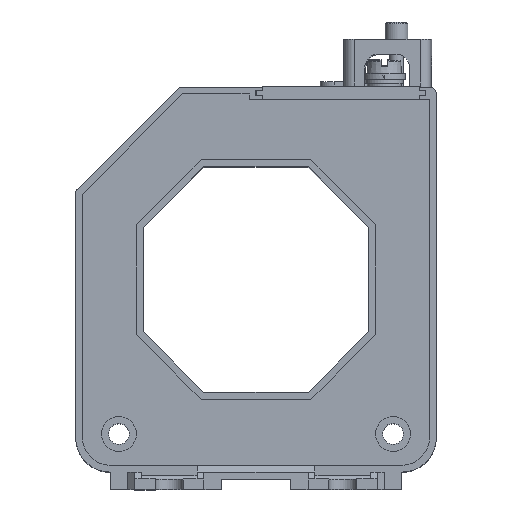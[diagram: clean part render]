
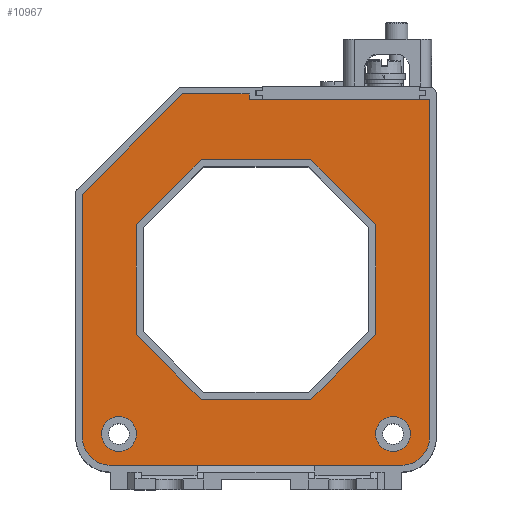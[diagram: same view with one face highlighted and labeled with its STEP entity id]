
A CAD part, top view. The second image highlights one B-rep face of the part: STEP entity #10967.
In plain terms, the highlighted planar face has unit normal (0, 0, 1).
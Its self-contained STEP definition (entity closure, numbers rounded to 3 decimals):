
#411=FACE_BOUND('',#1398,.T.);
#412=FACE_BOUND('',#1399,.T.);
#413=FACE_BOUND('',#1400,.T.);
#591=CIRCLE('',#11788,5.);
#593=CIRCLE('',#11791,5.);
#597=CIRCLE('',#11799,8.);
#598=CIRCLE('',#11800,8.);
#780=FACE_OUTER_BOUND('',#1397,.T.);
#1397=EDGE_LOOP('',(#7580,#7581,#7582,#7583,#7584,#7585,#7586,#7587,#7588));
#1398=EDGE_LOOP('',(#7589));
#1399=EDGE_LOOP('',(#7590));
#1400=EDGE_LOOP('',(#7591,#7592,#7593,#7594,#7595,#7596,#7597,#7598));
#2123=LINE('',#15468,#3386);
#2127=LINE('',#15475,#3390);
#2141=LINE('',#15508,#3404);
#2142=LINE('',#15510,#3405);
#2143=LINE('',#15512,#3406);
#2144=LINE('',#15516,#3407);
#2145=LINE('',#15519,#3408);
#2146=LINE('',#15522,#3409);
#2147=LINE('',#15524,#3410);
#2148=LINE('',#15526,#3411);
#2149=LINE('',#15528,#3412);
#2150=LINE('',#15530,#3413);
#2151=LINE('',#15532,#3414);
#2152=LINE('',#15534,#3415);
#2153=LINE('',#15535,#3416);
#3386=VECTOR('',#12754,10.);
#3390=VECTOR('',#12760,10.);
#3404=VECTOR('',#12782,10.);
#3405=VECTOR('',#12783,10.);
#3406=VECTOR('',#12784,10.);
#3407=VECTOR('',#12787,10.);
#3408=VECTOR('',#12790,10.);
#3409=VECTOR('',#12791,10.);
#3410=VECTOR('',#12792,10.);
#3411=VECTOR('',#12793,10.);
#3412=VECTOR('',#12794,10.);
#3413=VECTOR('',#12795,10.);
#3414=VECTOR('',#12796,10.);
#3415=VECTOR('',#12797,10.);
#3416=VECTOR('',#12798,10.);
#4633=VERTEX_POINT('',#15450);
#4635=VERTEX_POINT('',#15456);
#4639=VERTEX_POINT('',#15465);
#4640=VERTEX_POINT('',#15467);
#4642=VERTEX_POINT('',#15473);
#4657=VERTEX_POINT('',#15507);
#4658=VERTEX_POINT('',#15509);
#4659=VERTEX_POINT('',#15511);
#4660=VERTEX_POINT('',#15513);
#4661=VERTEX_POINT('',#15515);
#4662=VERTEX_POINT('',#15517);
#4663=VERTEX_POINT('',#15520);
#4664=VERTEX_POINT('',#15521);
#4665=VERTEX_POINT('',#15523);
#4666=VERTEX_POINT('',#15525);
#4667=VERTEX_POINT('',#15527);
#4668=VERTEX_POINT('',#15529);
#4669=VERTEX_POINT('',#15531);
#4670=VERTEX_POINT('',#15533);
#5762=EDGE_CURVE('',#4633,#4633,#591,.T.);
#5765=EDGE_CURVE('',#4635,#4635,#593,.T.);
#5770=EDGE_CURVE('',#4640,#4639,#2123,.T.);
#5774=EDGE_CURVE('',#4639,#4642,#2127,.T.);
#5790=EDGE_CURVE('',#4642,#4657,#2141,.T.);
#5791=EDGE_CURVE('',#4657,#4658,#2142,.T.);
#5792=EDGE_CURVE('',#4658,#4659,#2143,.T.);
#5793=EDGE_CURVE('',#4659,#4660,#597,.T.);
#5794=EDGE_CURVE('',#4660,#4661,#2144,.T.);
#5795=EDGE_CURVE('',#4661,#4662,#598,.T.);
#5796=EDGE_CURVE('',#4662,#4640,#2145,.T.);
#5797=EDGE_CURVE('',#4663,#4664,#2146,.T.);
#5798=EDGE_CURVE('',#4664,#4665,#2147,.T.);
#5799=EDGE_CURVE('',#4665,#4666,#2148,.T.);
#5800=EDGE_CURVE('',#4666,#4667,#2149,.T.);
#5801=EDGE_CURVE('',#4667,#4668,#2150,.T.);
#5802=EDGE_CURVE('',#4668,#4669,#2151,.T.);
#5803=EDGE_CURVE('',#4669,#4670,#2152,.T.);
#5804=EDGE_CURVE('',#4670,#4663,#2153,.T.);
#7580=ORIENTED_EDGE('',*,*,#5770,.T.);
#7581=ORIENTED_EDGE('',*,*,#5774,.T.);
#7582=ORIENTED_EDGE('',*,*,#5790,.T.);
#7583=ORIENTED_EDGE('',*,*,#5791,.T.);
#7584=ORIENTED_EDGE('',*,*,#5792,.T.);
#7585=ORIENTED_EDGE('',*,*,#5793,.T.);
#7586=ORIENTED_EDGE('',*,*,#5794,.T.);
#7587=ORIENTED_EDGE('',*,*,#5795,.T.);
#7588=ORIENTED_EDGE('',*,*,#5796,.T.);
#7589=ORIENTED_EDGE('',*,*,#5762,.T.);
#7590=ORIENTED_EDGE('',*,*,#5765,.T.);
#7591=ORIENTED_EDGE('',*,*,#5797,.T.);
#7592=ORIENTED_EDGE('',*,*,#5798,.T.);
#7593=ORIENTED_EDGE('',*,*,#5799,.T.);
#7594=ORIENTED_EDGE('',*,*,#5800,.T.);
#7595=ORIENTED_EDGE('',*,*,#5801,.T.);
#7596=ORIENTED_EDGE('',*,*,#5802,.T.);
#7597=ORIENTED_EDGE('',*,*,#5803,.T.);
#7598=ORIENTED_EDGE('',*,*,#5804,.T.);
#10512=PLANE('',#11798);
#10967=ADVANCED_FACE('',(#780,#411,#412,#413),#10512,.T.);
#11788=AXIS2_PLACEMENT_3D('',#15451,#12738,#12739);
#11791=AXIS2_PLACEMENT_3D('',#15457,#12745,#12746);
#11798=AXIS2_PLACEMENT_3D('',#15506,#12780,#12781);
#11799=AXIS2_PLACEMENT_3D('',#15514,#12785,#12786);
#11800=AXIS2_PLACEMENT_3D('',#15518,#12788,#12789);
#12738=DIRECTION('center_axis',(0.,0.,-1.));
#12739=DIRECTION('ref_axis',(1.,0.,0.));
#12745=DIRECTION('center_axis',(0.,0.,-1.));
#12746=DIRECTION('ref_axis',(1.,0.,0.));
#12754=DIRECTION('',(-1.,0.,0.));
#12760=DIRECTION('',(0.,1.,0.));
#12780=DIRECTION('center_axis',(0.,0.,1.));
#12781=DIRECTION('ref_axis',(1.,0.,0.));
#12782=DIRECTION('',(-1.,0.,0.));
#12783=DIRECTION('',(-0.707,-0.707,0.));
#12784=DIRECTION('',(0.,-1.,0.));
#12785=DIRECTION('center_axis',(0.,0.,1.));
#12786=DIRECTION('ref_axis',(-1.,0.,0.));
#12787=DIRECTION('',(1.,0.,0.));
#12788=DIRECTION('center_axis',(0.,0.,1.));
#12789=DIRECTION('ref_axis',(0.,-1.,0.));
#12790=DIRECTION('',(0.,1.,0.));
#12791=DIRECTION('',(-0.707,0.707,0.));
#12792=DIRECTION('',(0.,1.,0.));
#12793=DIRECTION('',(0.707,0.707,0.));
#12794=DIRECTION('',(1.,0.,0.));
#12795=DIRECTION('',(0.707,-0.707,0.));
#12796=DIRECTION('',(0.,-1.,0.));
#12797=DIRECTION('',(-0.707,-0.707,0.));
#12798=DIRECTION('',(-1.,0.,0.));
#15450=CARTESIAN_POINT('',(55.672,-98.,60.));
#15451=CARTESIAN_POINT('Origin',(60.672,-98.,60.));
#15456=CARTESIAN_POINT('',(-23.328,-98.,60.));
#15457=CARTESIAN_POINT('Origin',(-18.328,-98.,60.));
#15465=CARTESIAN_POINT('',(19.172,-1.5,60.));
#15467=CARTESIAN_POINT('',(71.172,-1.5,60.));
#15468=CARTESIAN_POINT('',(46.172,-1.5,60.));
#15473=CARTESIAN_POINT('',(19.172,0.,60.));
#15475=CARTESIAN_POINT('',(19.172,-27.5,60.));
#15506=CARTESIAN_POINT('Origin',(21.172,-53.5,60.));
#15507=CARTESIAN_POINT('',(0.,0.,60.));
#15508=CARTESIAN_POINT('',(71.172,0.,60.));
#15509=CARTESIAN_POINT('',(-28.828,-28.828,60.));
#15510=CARTESIAN_POINT('',(0.,0.,60.));
#15511=CARTESIAN_POINT('',(-28.828,-99.,60.));
#15512=CARTESIAN_POINT('',(-28.828,-28.828,60.));
#15513=CARTESIAN_POINT('',(-20.828,-107.,60.));
#15514=CARTESIAN_POINT('Origin',(-20.828,-99.,60.));
#15515=CARTESIAN_POINT('',(63.172,-107.,60.));
#15516=CARTESIAN_POINT('',(-20.828,-107.,60.));
#15517=CARTESIAN_POINT('',(71.172,-99.,60.));
#15518=CARTESIAN_POINT('Origin',(63.172,-99.,60.));
#15519=CARTESIAN_POINT('',(71.172,-99.,60.));
#15520=CARTESIAN_POINT('',(5.343,-88.,60.));
#15521=CARTESIAN_POINT('',(-13.328,-69.328,60.));
#15522=CARTESIAN_POINT('',(5.343,-88.,60.));
#15523=CARTESIAN_POINT('',(-13.328,-37.672,60.));
#15524=CARTESIAN_POINT('',(-13.328,-69.328,60.));
#15525=CARTESIAN_POINT('',(5.343,-19.,60.));
#15526=CARTESIAN_POINT('',(-13.328,-37.672,60.));
#15527=CARTESIAN_POINT('',(37.,-19.,60.));
#15528=CARTESIAN_POINT('',(5.343,-19.,60.));
#15529=CARTESIAN_POINT('',(55.672,-37.672,60.));
#15530=CARTESIAN_POINT('',(37.,-19.,60.));
#15531=CARTESIAN_POINT('',(55.672,-69.328,60.));
#15532=CARTESIAN_POINT('',(55.672,-37.672,60.));
#15533=CARTESIAN_POINT('',(37.,-88.,60.));
#15534=CARTESIAN_POINT('',(55.672,-69.328,60.));
#15535=CARTESIAN_POINT('',(37.,-88.,60.));
